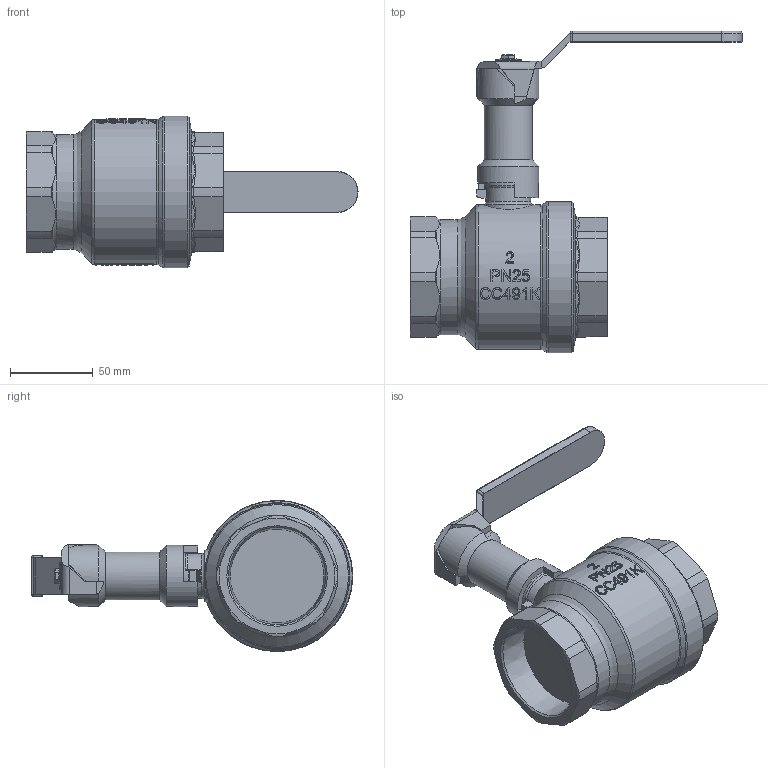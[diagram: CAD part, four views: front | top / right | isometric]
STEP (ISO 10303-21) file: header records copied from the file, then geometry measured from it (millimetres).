
FILE_DESCRIPTION((''),'2;1');
FILE_NAME('P:\Fastrack\53972_CRANE 3D\Ball Valves\Workplace\Crane Ball Valves\D171EXS_2in\D171EXS_2in.stp','2011-02-14T12:56:15',('btaylor'),(''),'Autodesk Inventor 2008','Autodesk Inventor 2008','');
FILE_SCHEMA(('AUTOMOTIVE_DESIGN { 1 0 10303 214 1 1 1 1 }'));
Length unit declared in the file: millimetre
Products named in the file (1): D171EXS_2in
Bounding box: 200.75 x 194.42 x 91.5 mm (x, y, z)
Volume: 593259.3 mm3; surface area: 76995 mm2
Topology: 1 solids, 1 shells, 1315 faces, 3652 edges, 2395 vertices
Faces by surface type: plane 735, bspline 396, cylinder 92, cone 75, torus 15, sphere 2
Full cylindrical faces by diameter (mm): 1.574 x1, 8.04 x1, 14 x1, 16 x1, 17 x1, 22 x2, 27 x1, 28.5 x1, 29 x2, 37 x1, 69.5 x1, 87.5 x1, 91.5 x1
Entity records: 80971 total; most frequent: CARTESIAN_POINT 49935, ORIENTED_EDGE 7194, DIRECTION 4721, EDGE_CURVE 3597, VERTEX_POINT 2382, VECTOR 2111, LINE 2111, EDGE_LOOP 1462
